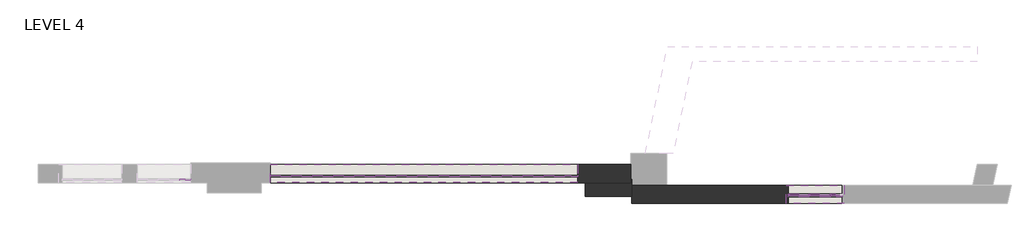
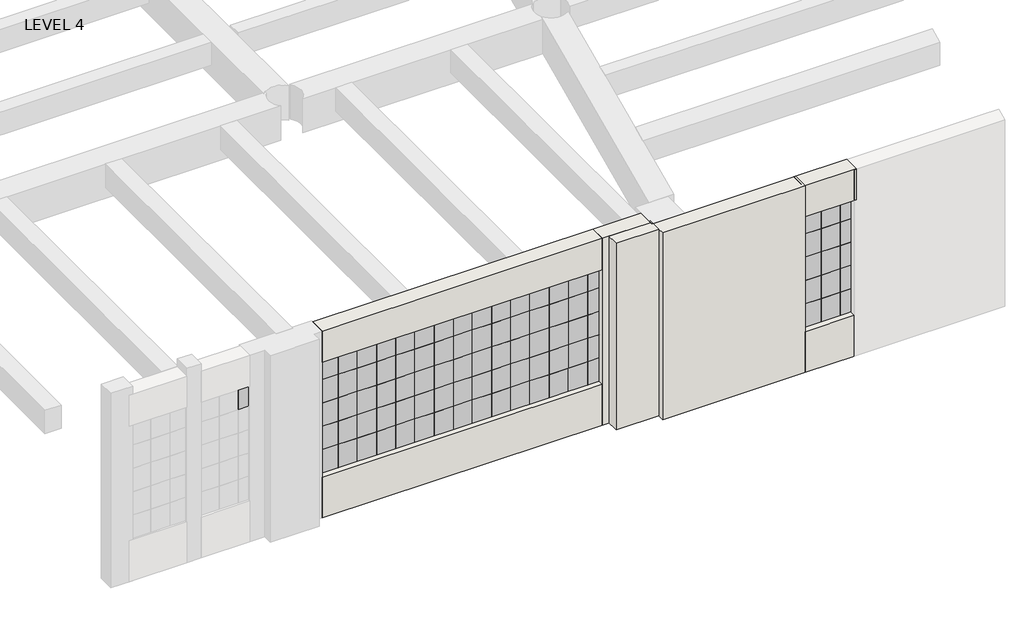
# One storey, part 16 of 26: 91 plates, 31 members, 7 walls.
"""IFC4 building model written with IfcOpenShell, lengths in millimetres."""

from ifc_helpers import new_model, si_unit, frame, origin, origin_with_axes, place, context, project, spatial, polyline, outline, extrude, faceted_brep, transform, mapped, element, save
from components import member_038dcf1c, member_3d4b608b, member_3c10d71f, member_653bb31e, member_9ec6e97d, member_6e26db71, member_d9fec558, member_0e6c94ff, member_484ef542, member_f6062bf7, system_panel_glazed_ab35d819, system_panel_glazed_0c78a478, system_panel_glazed_418eb6cd, system_panel_glazed_79403728, system_panel_glazed_babe58e8, system_panel_glazed_26306ce5, system_panel_glazed_edee1c3a

model = new_model("IFC4")

# Units and contexts
model_context = context("Model", 3, world=origin())
ifc_project = project(units=[si_unit("LENGTHUNIT", "METRE", prefix="MILLI")], contexts=[model_context])

# Site, building, storey
site = spatial("IfcSite", under=ifc_project)
building = spatial("IfcBuilding", under=site)
storey = spatial("IfcBuildingStorey", under=building, Name="LEVEL 4", Elevation=0.0)

# Members
placement = place(None, origin())
member_shape = member_038dcf1c(model_context)
element("IfcMember", 1, ObjectType="Circular Mullion : 1 1/4\" Square", at=placement, inside=storey, context=model_context, shape_type="MappedRepresentation", body=[
    mapped(member_shape, transform((14417.8363001, 87038.6689412, 2628.9), x_axis=(-1.0, 0.0, 0.0), y_axis=(0.0, -1.0, 0.0), z_axis=(0.0, 0.0, 1.0))),
])
element("IfcMember", 2, ObjectType="Circular Mullion : 1 1/4\" Square", at=placement, inside=storey, context=model_context, shape_type="MappedRepresentation", body=[
    mapped(member_shape, transform((14417.8363001, 87038.6689412, 2171.7), x_axis=(-1.0, 0.0, 0.0), y_axis=(0.0, -1.0, 0.0), z_axis=(0.0, 0.0, 1.0))),
])
element("IfcMember", 3, ObjectType="Circular Mullion : 1 1/4\" Square", at=placement, inside=storey, context=model_context, shape_type="MappedRepresentation", body=[
    mapped(member_shape, transform((14417.8363001, 87038.6689412, 1714.5), x_axis=(-1.0, 0.0, 0.0), y_axis=(0.0, -1.0, 0.0), z_axis=(0.0, 0.0, 1.0))),
])
element("IfcMember", 4, ObjectType="Circular Mullion : 1 1/4\" Square", at=placement, inside=storey, context=model_context, shape_type="MappedRepresentation", body=[
    mapped(member_shape, transform((14417.8363001, 87038.6689412, 1257.3), x_axis=(-1.0, 0.0, 0.0), y_axis=(0.0, -1.0, 0.0), z_axis=(0.0, 0.0, 1.0))),
])
member_2_shape = member_3d4b608b(model_context)
element("IfcMember", 5, ObjectType="Circular Mullion : 1 1/4\" Square", at=placement, inside=storey, context=model_context, shape_type="MappedRepresentation", body=[
    mapped(member_2_shape, transform((15129.0363004, 87038.6689412, 2171.7), x_axis=(1.0, 0.0, 0.0), y_axis=(0.0, -1.0, 0.0), z_axis=(0.0, 0.0, -1.0))),
])
element("IfcMember", 6, ObjectType="Circular Mullion : 1 1/4\" Square", at=placement, inside=storey, context=model_context, shape_type="MappedRepresentation", body=[
    mapped(member_2_shape, transform((15129.0363004, 87038.6689412, 1714.5), x_axis=(1.0, 0.0, 0.0), y_axis=(0.0, -1.0, 0.0), z_axis=(0.0, 0.0, -1.0))),
])
element("IfcMember", 7, ObjectType="Circular Mullion : 1 1/4\" Square", at=placement, inside=storey, context=model_context, shape_type="MappedRepresentation", body=[
    mapped(member_2_shape, transform((15129.0363004, 87038.6689412, 1257.3), x_axis=(1.0, 0.0, 0.0), y_axis=(0.0, -1.0, 0.0), z_axis=(0.0, 0.0, -1.0))),
])
element("IfcMember", 8, ObjectType="Circular Mullion : 1 1/4\" Square", at=placement, inside=storey, context=model_context, shape_type="MappedRepresentation", body=[
    mapped(member_2_shape, transform((14773.4363004, 87038.6689412, 2171.7), x_axis=(1.0, 0.0, 0.0), y_axis=(0.0, -1.0, 0.0), z_axis=(0.0, 0.0, -1.0))),
])
element("IfcMember", 9, ObjectType="Circular Mullion : 1 1/4\" Square", at=placement, inside=storey, context=model_context, shape_type="MappedRepresentation", body=[
    mapped(member_2_shape, transform((14773.4363004, 87038.6689412, 1714.5), x_axis=(1.0, 0.0, 0.0), y_axis=(0.0, -1.0, 0.0), z_axis=(0.0, 0.0, -1.0))),
])
element("IfcMember", 10, ObjectType="Circular Mullion : 1 1/4\" Square", at=placement, inside=storey, context=model_context, shape_type="MappedRepresentation", body=[
    mapped(member_2_shape, transform((14773.4363004, 87038.6689412, 1257.3), x_axis=(1.0, 0.0, 0.0), y_axis=(0.0, -1.0, 0.0), z_axis=(0.0, 0.0, -1.0))),
])
element("IfcMember", 11, ObjectType="Circular Mullion : 1 1/4\" Square", at=placement, inside=storey, context=model_context, shape_type="MappedRepresentation", body=[
    mapped(member_2_shape, transform((15129.0363004, 87038.6689412, 800.1), x_axis=(1.0, 0.0, 0.0), y_axis=(0.0, -1.0, 0.0), z_axis=(0.0, 0.0, -1.0))),
])
element("IfcMember", 12, ObjectType="Circular Mullion : 1 1/4\" Square", at=placement, inside=storey, context=model_context, shape_type="MappedRepresentation", body=[
    mapped(member_2_shape, transform((14773.4363004, 87038.6689412, 800.1), x_axis=(1.0, 0.0, 0.0), y_axis=(0.0, -1.0, 0.0), z_axis=(0.0, 0.0, -1.0))),
])
member_3_shape = member_3c10d71f(model_context)
element("IfcMember", 13, ObjectType="Circular Mullion : 1 1/4\" Square", at=placement, inside=storey, context=model_context, shape_type="MappedRepresentation", body=[
    mapped(member_3_shape, transform((14786.1363004, 87038.6689412, 800.1), x_axis=(0.0, 0.0, -1.0), y_axis=(0.0, -1.0, 0.0), z_axis=(-1.0, 0.0, 0.0))),
])
member_4_shape = member_653bb31e(model_context)
element("IfcMember", 14, ObjectType="Circular Mullion : 1 1/4\" Square", at=placement, inside=storey, context=model_context, shape_type="MappedRepresentation", body=[
    mapped(member_4_shape, transform((15116.3363004, 87038.6689412, 1257.3), x_axis=(0.0, 0.0, 1.0), y_axis=(0.0, -1.0, 0.0), z_axis=(1.0, 0.0, 0.0))),
])
element("IfcMember", 15, ObjectType="Circular Mullion : 1 1/4\" Square", at=placement, inside=storey, context=model_context, shape_type="MappedRepresentation", body=[
    mapped(member_4_shape, transform((15116.3363004, 87038.6689412, 1714.5), x_axis=(0.0, 0.0, 1.0), y_axis=(0.0, -1.0, 0.0), z_axis=(1.0, 0.0, 0.0))),
])
element("IfcMember", 16, ObjectType="Circular Mullion : 1 1/4\" Square", at=placement, inside=storey, context=model_context, shape_type="MappedRepresentation", body=[
    mapped(member_4_shape, transform((15116.3363004, 87038.6689412, 2171.7), x_axis=(0.0, 0.0, 1.0), y_axis=(0.0, -1.0, 0.0), z_axis=(1.0, 0.0, 0.0))),
])
element("IfcMember", 17, ObjectType="Circular Mullion : 1 1/4\" Square", at=placement, inside=storey, context=model_context, shape_type="MappedRepresentation", body=[
    mapped(member_4_shape, transform((15116.3363004, 87038.6689412, 2628.9), x_axis=(0.0, 0.0, 1.0), y_axis=(0.0, -1.0, 0.0), z_axis=(1.0, 0.0, 0.0))),
])
member_5_shape = member_9ec6e97d(model_context)
element("IfcMember", 18, ObjectType="Circular Mullion : 1 1/4\" Square", at=placement, inside=storey, context=model_context, shape_type="MappedRepresentation", body=[
    mapped(member_5_shape, transform((14443.2363001, 87038.6689412, 800.1), x_axis=(0.0, 0.0, -1.0), y_axis=(0.0, -1.0, 0.0), z_axis=(-1.0, 0.0, 0.0))),
])
member_6_shape = member_6e26db71(model_context)
element("IfcMember", 19, ObjectType="Circular Mullion : 1 1/4\" Square", at=placement, inside=storey, context=model_context, shape_type="MappedRepresentation", body=[
    mapped(member_6_shape, transform((14760.7363004, 87038.6689412, 1257.3), x_axis=(0.0, 0.0, 1.0), y_axis=(0.0, -1.0, 0.0), z_axis=(1.0, 0.0, 0.0))),
])
element("IfcMember", 20, ObjectType="Circular Mullion : 1 1/4\" Square", at=placement, inside=storey, context=model_context, shape_type="MappedRepresentation", body=[
    mapped(member_6_shape, transform((14760.7363004, 87038.6689412, 1714.5), x_axis=(0.0, 0.0, 1.0), y_axis=(0.0, -1.0, 0.0), z_axis=(1.0, 0.0, 0.0))),
])
element("IfcMember", 21, ObjectType="Circular Mullion : 1 1/4\" Square", at=placement, inside=storey, context=model_context, shape_type="MappedRepresentation", body=[
    mapped(member_6_shape, transform((14760.7363004, 87038.6689412, 2171.7), x_axis=(0.0, 0.0, 1.0), y_axis=(0.0, -1.0, 0.0), z_axis=(1.0, 0.0, 0.0))),
])
element("IfcMember", 22, ObjectType="Circular Mullion : 1 1/4\" Square", at=placement, inside=storey, context=model_context, shape_type="MappedRepresentation", body=[
    mapped(member_6_shape, transform((14760.7363004, 87038.6689412, 2628.9), x_axis=(0.0, 0.0, 1.0), y_axis=(0.0, -1.0, 0.0), z_axis=(1.0, 0.0, 0.0))),
])
member_7_shape = member_d9fec558(model_context)
element("IfcMember", 23, ObjectType="Circular Mullion : 1 1/4\" Square", at=placement, inside=storey, context=model_context, shape_type="MappedRepresentation", body=[
    mapped(member_7_shape, transform((15129.0363004, 87038.6689412, 2628.9), x_axis=(1.0, 0.0, 0.0), y_axis=(0.0, -1.0, 0.0), z_axis=(0.0, 0.0, -1.0))),
])
element("IfcMember", 24, ObjectType="Circular Mullion : 1 1/4\" Square", at=placement, inside=storey, context=model_context, shape_type="MappedRepresentation", body=[
    mapped(member_7_shape, transform((14773.4363004, 87038.6689412, 2628.9), x_axis=(1.0, 0.0, 0.0), y_axis=(0.0, -1.0, 0.0), z_axis=(0.0, 0.0, -1.0))),
])
member_8_shape = member_0e6c94ff(model_context)
element("IfcMember", 25, ObjectType="Circular Mullion : 1 1/4\" Square", at=placement, inside=storey, context=model_context, shape_type="MappedRepresentation", body=[
    mapped(member_8_shape, transform((15326.2239622, 87038.6689412, 2628.9), x_axis=(1.0, 0.0, 0.0), y_axis=(0.0, -1.0, 0.0), z_axis=(0.0, 0.0, -1.0))),
])
element("IfcMember", 26, ObjectType="Circular Mullion : 1 1/4\" Square", at=placement, inside=storey, context=model_context, shape_type="MappedRepresentation", body=[
    mapped(member_8_shape, transform((14417.8363001, 87038.6689412, 3060.7), x_axis=(-1.0, 0.0, 0.0), y_axis=(0.0, -1.0, 0.0), z_axis=(0.0, 0.0, 1.0))),
])
member_9_shape = member_484ef542(model_context)
element("IfcMember", 27, ObjectType="Circular Mullion : 1 1/4\" Square", at=placement, inside=storey, context=model_context, shape_type="MappedRepresentation", body=[
    mapped(member_9_shape, transform((15141.7363004, 87038.6689412, 800.1), x_axis=(0.0, 0.0, -1.0), y_axis=(0.0, -1.0, 0.0), z_axis=(-1.0, 0.0, 0.0))),
])
member_10_shape = member_f6062bf7(model_context)
element("IfcMember", 28, ObjectType="Circular Mullion : 1 1/4\" Square", at=placement, inside=storey, context=model_context, shape_type="MappedRepresentation", body=[
    mapped(member_10_shape, transform((15300.8239622, 87038.6689412, 1257.3), x_axis=(0.0, 0.0, 1.0), y_axis=(0.0, -1.0, 0.0), z_axis=(1.0, 0.0, 0.0))),
])
element("IfcMember", 29, ObjectType="Circular Mullion : 1 1/4\" Square", at=placement, inside=storey, context=model_context, shape_type="MappedRepresentation", body=[
    mapped(member_10_shape, transform((15300.8239622, 87038.6689412, 1714.5), x_axis=(0.0, 0.0, 1.0), y_axis=(0.0, -1.0, 0.0), z_axis=(1.0, 0.0, 0.0))),
])
element("IfcMember", 30, ObjectType="Circular Mullion : 1 1/4\" Square", at=placement, inside=storey, context=model_context, shape_type="MappedRepresentation", body=[
    mapped(member_10_shape, transform((15300.8239622, 87038.6689412, 2171.7), x_axis=(0.0, 0.0, 1.0), y_axis=(0.0, -1.0, 0.0), z_axis=(1.0, 0.0, 0.0))),
])
element("IfcMember", 31, ObjectType="Circular Mullion : 1 1/4\" Square", at=placement, inside=storey, context=model_context, shape_type="MappedRepresentation", body=[
    mapped(member_10_shape, transform((15300.8239622, 87038.6689412, 2628.9), x_axis=(0.0, 0.0, 1.0), y_axis=(0.0, -1.0, 0.0), z_axis=(1.0, 0.0, 0.0))),
])

# Plates
system_panel_glazed_shape = system_panel_glazed_ab35d819(model_context)
element("IfcPlate", 32, ObjectType="System Panel : Glazed", at=placement, inside=storey, context=model_context, shape_type="MappedRepresentation", body=[
    mapped(system_panel_glazed_shape, transform((5840.1125761, 87378.9464024, 800.1), x_axis=(1.0, 0.0, 0.0), y_axis=(0.0, 1.0, 0.0), z_axis=(0.0, 0.0, 1.0))),
])
element("IfcPlate", 33, ObjectType="System Panel : Glazed", at=placement, inside=storey, context=model_context, shape_type="MappedRepresentation", body=[
    mapped(system_panel_glazed_shape, transform((10462.9125762, 87378.9464024, 800.1), x_axis=(1.0, 0.0, 0.0), y_axis=(0.0, 1.0, 0.0), z_axis=(0.0, 0.0, 1.0))),
])
element("IfcPlate", 34, ObjectType="System Panel : Glazed", at=placement, inside=storey, context=model_context, shape_type="MappedRepresentation", body=[
    mapped(system_panel_glazed_shape, transform((14595.6363003, 87038.6689412, 800.1), x_axis=(1.0, 0.0, 0.0), y_axis=(0.0, 1.0, 0.0), z_axis=(0.0, 0.0, 1.0))),
])
element("IfcPlate", 35, ObjectType="System Panel : Glazed", at=placement, inside=storey, context=model_context, shape_type="MappedRepresentation", body=[
    mapped(system_panel_glazed_shape, transform((10107.3125762, 87378.9464024, 800.1), x_axis=(1.0, 0.0, 0.0), y_axis=(0.0, 1.0, 0.0), z_axis=(0.0, 0.0, 1.0))),
])
element("IfcPlate", 36, ObjectType="System Panel : Glazed", at=placement, inside=storey, context=model_context, shape_type="MappedRepresentation", body=[
    mapped(system_panel_glazed_shape, transform((9751.7125762, 87378.9464024, 800.1), x_axis=(1.0, 0.0, 0.0), y_axis=(0.0, 1.0, 0.0), z_axis=(0.0, 0.0, 1.0))),
])
element("IfcPlate", 37, ObjectType="System Panel : Glazed", at=placement, inside=storey, context=model_context, shape_type="MappedRepresentation", body=[
    mapped(system_panel_glazed_shape, transform((9396.1125762, 87378.9464024, 800.1), x_axis=(1.0, 0.0, 0.0), y_axis=(0.0, 1.0, 0.0), z_axis=(0.0, 0.0, 1.0))),
])
element("IfcPlate", 38, ObjectType="System Panel : Glazed", at=placement, inside=storey, context=model_context, shape_type="MappedRepresentation", body=[
    mapped(system_panel_glazed_shape, transform((9040.5125762, 87378.9464024, 800.1), x_axis=(1.0, 0.0, 0.0), y_axis=(0.0, 1.0, 0.0), z_axis=(0.0, 0.0, 1.0))),
])
element("IfcPlate", 39, ObjectType="System Panel : Glazed", at=placement, inside=storey, context=model_context, shape_type="MappedRepresentation", body=[
    mapped(system_panel_glazed_shape, transform((8684.9125762, 87378.9464024, 800.1), x_axis=(1.0, 0.0, 0.0), y_axis=(0.0, 1.0, 0.0), z_axis=(0.0, 0.0, 1.0))),
])
element("IfcPlate", 40, ObjectType="System Panel : Glazed", at=placement, inside=storey, context=model_context, shape_type="MappedRepresentation", body=[
    mapped(system_panel_glazed_shape, transform((8329.3125762, 87378.9464024, 800.1), x_axis=(1.0, 0.0, 0.0), y_axis=(0.0, 1.0, 0.0), z_axis=(0.0, 0.0, 1.0))),
])
element("IfcPlate", 41, ObjectType="System Panel : Glazed", at=placement, inside=storey, context=model_context, shape_type="MappedRepresentation", body=[
    mapped(system_panel_glazed_shape, transform((7973.7125762, 87378.9464024, 800.1), x_axis=(1.0, 0.0, 0.0), y_axis=(0.0, 1.0, 0.0), z_axis=(0.0, 0.0, 1.0))),
])
element("IfcPlate", 42, ObjectType="System Panel : Glazed", at=placement, inside=storey, context=model_context, shape_type="MappedRepresentation", body=[
    mapped(system_panel_glazed_shape, transform((7618.1125762, 87378.9464024, 800.1), x_axis=(1.0, 0.0, 0.0), y_axis=(0.0, 1.0, 0.0), z_axis=(0.0, 0.0, 1.0))),
])
element("IfcPlate", 43, ObjectType="System Panel : Glazed", at=placement, inside=storey, context=model_context, shape_type="MappedRepresentation", body=[
    mapped(system_panel_glazed_shape, transform((7262.5125762, 87378.9464024, 800.1), x_axis=(1.0, 0.0, 0.0), y_axis=(0.0, 1.0, 0.0), z_axis=(0.0, 0.0, 1.0))),
])
element("IfcPlate", 44, ObjectType="System Panel : Glazed", at=placement, inside=storey, context=model_context, shape_type="MappedRepresentation", body=[
    mapped(system_panel_glazed_shape, transform((5840.1125761, 87378.9464024, 1257.3), x_axis=(1.0, 0.0, 0.0), y_axis=(0.0, 1.0, 0.0), z_axis=(0.0, 0.0, 1.0))),
])
element("IfcPlate", 45, ObjectType="System Panel : Glazed", at=placement, inside=storey, context=model_context, shape_type="MappedRepresentation", body=[
    mapped(system_panel_glazed_shape, transform((10107.3125762, 87378.9464024, 1257.3), x_axis=(1.0, 0.0, 0.0), y_axis=(0.0, 1.0, 0.0), z_axis=(0.0, 0.0, 1.0))),
])
element("IfcPlate", 46, ObjectType="System Panel : Glazed", at=placement, inside=storey, context=model_context, shape_type="MappedRepresentation", body=[
    mapped(system_panel_glazed_shape, transform((9751.7125762, 87378.9464024, 1257.3), x_axis=(1.0, 0.0, 0.0), y_axis=(0.0, 1.0, 0.0), z_axis=(0.0, 0.0, 1.0))),
])
element("IfcPlate", 47, ObjectType="System Panel : Glazed", at=placement, inside=storey, context=model_context, shape_type="MappedRepresentation", body=[
    mapped(system_panel_glazed_shape, transform((9396.1125762, 87378.9464024, 1257.3), x_axis=(1.0, 0.0, 0.0), y_axis=(0.0, 1.0, 0.0), z_axis=(0.0, 0.0, 1.0))),
])
element("IfcPlate", 48, ObjectType="System Panel : Glazed", at=placement, inside=storey, context=model_context, shape_type="MappedRepresentation", body=[
    mapped(system_panel_glazed_shape, transform((9040.5125762, 87378.9464024, 1257.3), x_axis=(1.0, 0.0, 0.0), y_axis=(0.0, 1.0, 0.0), z_axis=(0.0, 0.0, 1.0))),
])
element("IfcPlate", 49, ObjectType="System Panel : Glazed", at=placement, inside=storey, context=model_context, shape_type="MappedRepresentation", body=[
    mapped(system_panel_glazed_shape, transform((8684.9125762, 87378.9464024, 1257.3), x_axis=(1.0, 0.0, 0.0), y_axis=(0.0, 1.0, 0.0), z_axis=(0.0, 0.0, 1.0))),
])
element("IfcPlate", 50, ObjectType="System Panel : Glazed", at=placement, inside=storey, context=model_context, shape_type="MappedRepresentation", body=[
    mapped(system_panel_glazed_shape, transform((8329.3125762, 87378.9464024, 1257.3), x_axis=(1.0, 0.0, 0.0), y_axis=(0.0, 1.0, 0.0), z_axis=(0.0, 0.0, 1.0))),
])
element("IfcPlate", 51, ObjectType="System Panel : Glazed", at=placement, inside=storey, context=model_context, shape_type="MappedRepresentation", body=[
    mapped(system_panel_glazed_shape, transform((7973.7125762, 87378.9464024, 1257.3), x_axis=(1.0, 0.0, 0.0), y_axis=(0.0, 1.0, 0.0), z_axis=(0.0, 0.0, 1.0))),
])
element("IfcPlate", 52, ObjectType="System Panel : Glazed", at=placement, inside=storey, context=model_context, shape_type="MappedRepresentation", body=[
    mapped(system_panel_glazed_shape, transform((7618.1125762, 87378.9464024, 1257.3), x_axis=(1.0, 0.0, 0.0), y_axis=(0.0, 1.0, 0.0), z_axis=(0.0, 0.0, 1.0))),
])
element("IfcPlate", 53, ObjectType="System Panel : Glazed", at=placement, inside=storey, context=model_context, shape_type="MappedRepresentation", body=[
    mapped(system_panel_glazed_shape, transform((7262.5125762, 87378.9464024, 1257.3), x_axis=(1.0, 0.0, 0.0), y_axis=(0.0, 1.0, 0.0), z_axis=(0.0, 0.0, 1.0))),
])
element("IfcPlate", 54, ObjectType="System Panel : Glazed", at=placement, inside=storey, context=model_context, shape_type="MappedRepresentation", body=[
    mapped(system_panel_glazed_shape, transform((10462.9125762, 87378.9464024, 1257.3), x_axis=(1.0, 0.0, 0.0), y_axis=(0.0, 1.0, 0.0), z_axis=(0.0, 0.0, 1.0))),
])
element("IfcPlate", 55, ObjectType="System Panel : Glazed", at=placement, inside=storey, context=model_context, shape_type="MappedRepresentation", body=[
    mapped(system_panel_glazed_shape, transform((5840.1125761, 87378.9464024, 1714.5), x_axis=(1.0, 0.0, 0.0), y_axis=(0.0, 1.0, 0.0), z_axis=(0.0, 0.0, 1.0))),
])
element("IfcPlate", 56, ObjectType="System Panel : Glazed", at=placement, inside=storey, context=model_context, shape_type="MappedRepresentation", body=[
    mapped(system_panel_glazed_shape, transform((10107.3125762, 87378.9464024, 1714.5), x_axis=(1.0, 0.0, 0.0), y_axis=(0.0, 1.0, 0.0), z_axis=(0.0, 0.0, 1.0))),
])
element("IfcPlate", 57, ObjectType="System Panel : Glazed", at=placement, inside=storey, context=model_context, shape_type="MappedRepresentation", body=[
    mapped(system_panel_glazed_shape, transform((9751.7125762, 87378.9464024, 1714.5), x_axis=(1.0, 0.0, 0.0), y_axis=(0.0, 1.0, 0.0), z_axis=(0.0, 0.0, 1.0))),
])
element("IfcPlate", 58, ObjectType="System Panel : Glazed", at=placement, inside=storey, context=model_context, shape_type="MappedRepresentation", body=[
    mapped(system_panel_glazed_shape, transform((9396.1125762, 87378.9464024, 1714.5), x_axis=(1.0, 0.0, 0.0), y_axis=(0.0, 1.0, 0.0), z_axis=(0.0, 0.0, 1.0))),
])
element("IfcPlate", 59, ObjectType="System Panel : Glazed", at=placement, inside=storey, context=model_context, shape_type="MappedRepresentation", body=[
    mapped(system_panel_glazed_shape, transform((9040.5125762, 87378.9464024, 1714.5), x_axis=(1.0, 0.0, 0.0), y_axis=(0.0, 1.0, 0.0), z_axis=(0.0, 0.0, 1.0))),
])
element("IfcPlate", 60, ObjectType="System Panel : Glazed", at=placement, inside=storey, context=model_context, shape_type="MappedRepresentation", body=[
    mapped(system_panel_glazed_shape, transform((8684.9125762, 87378.9464024, 1714.5), x_axis=(1.0, 0.0, 0.0), y_axis=(0.0, 1.0, 0.0), z_axis=(0.0, 0.0, 1.0))),
])
element("IfcPlate", 61, ObjectType="System Panel : Glazed", at=placement, inside=storey, context=model_context, shape_type="MappedRepresentation", body=[
    mapped(system_panel_glazed_shape, transform((8329.3125762, 87378.9464024, 1714.5), x_axis=(1.0, 0.0, 0.0), y_axis=(0.0, 1.0, 0.0), z_axis=(0.0, 0.0, 1.0))),
])
element("IfcPlate", 62, ObjectType="System Panel : Glazed", at=placement, inside=storey, context=model_context, shape_type="MappedRepresentation", body=[
    mapped(system_panel_glazed_shape, transform((7973.7125762, 87378.9464024, 1714.5), x_axis=(1.0, 0.0, 0.0), y_axis=(0.0, 1.0, 0.0), z_axis=(0.0, 0.0, 1.0))),
])
element("IfcPlate", 63, ObjectType="System Panel : Glazed", at=placement, inside=storey, context=model_context, shape_type="MappedRepresentation", body=[
    mapped(system_panel_glazed_shape, transform((7618.1125762, 87378.9464024, 1714.5), x_axis=(1.0, 0.0, 0.0), y_axis=(0.0, 1.0, 0.0), z_axis=(0.0, 0.0, 1.0))),
])
element("IfcPlate", 64, ObjectType="System Panel : Glazed", at=placement, inside=storey, context=model_context, shape_type="MappedRepresentation", body=[
    mapped(system_panel_glazed_shape, transform((7262.5125762, 87378.9464024, 1714.5), x_axis=(1.0, 0.0, 0.0), y_axis=(0.0, 1.0, 0.0), z_axis=(0.0, 0.0, 1.0))),
])
element("IfcPlate", 65, ObjectType="System Panel : Glazed", at=placement, inside=storey, context=model_context, shape_type="MappedRepresentation", body=[
    mapped(system_panel_glazed_shape, transform((10462.9125762, 87378.9464024, 1714.5), x_axis=(1.0, 0.0, 0.0), y_axis=(0.0, 1.0, 0.0), z_axis=(0.0, 0.0, 1.0))),
])
element("IfcPlate", 66, ObjectType="System Panel : Glazed", at=placement, inside=storey, context=model_context, shape_type="MappedRepresentation", body=[
    mapped(system_panel_glazed_shape, transform((5840.1125761, 87378.9464024, 2171.7), x_axis=(1.0, 0.0, 0.0), y_axis=(0.0, 1.0, 0.0), z_axis=(0.0, 0.0, 1.0))),
])
element("IfcPlate", 67, ObjectType="System Panel : Glazed", at=placement, inside=storey, context=model_context, shape_type="MappedRepresentation", body=[
    mapped(system_panel_glazed_shape, transform((10107.3125762, 87378.9464024, 2171.7), x_axis=(1.0, 0.0, 0.0), y_axis=(0.0, 1.0, 0.0), z_axis=(0.0, 0.0, 1.0))),
])
element("IfcPlate", 68, ObjectType="System Panel : Glazed", at=placement, inside=storey, context=model_context, shape_type="MappedRepresentation", body=[
    mapped(system_panel_glazed_shape, transform((9751.7125762, 87378.9464024, 2171.7), x_axis=(1.0, 0.0, 0.0), y_axis=(0.0, 1.0, 0.0), z_axis=(0.0, 0.0, 1.0))),
])
element("IfcPlate", 69, ObjectType="System Panel : Glazed", at=placement, inside=storey, context=model_context, shape_type="MappedRepresentation", body=[
    mapped(system_panel_glazed_shape, transform((9396.1125762, 87378.9464024, 2171.7), x_axis=(1.0, 0.0, 0.0), y_axis=(0.0, 1.0, 0.0), z_axis=(0.0, 0.0, 1.0))),
])
element("IfcPlate", 70, ObjectType="System Panel : Glazed", at=placement, inside=storey, context=model_context, shape_type="MappedRepresentation", body=[
    mapped(system_panel_glazed_shape, transform((9040.5125762, 87378.9464024, 2171.7), x_axis=(1.0, 0.0, 0.0), y_axis=(0.0, 1.0, 0.0), z_axis=(0.0, 0.0, 1.0))),
])
element("IfcPlate", 71, ObjectType="System Panel : Glazed", at=placement, inside=storey, context=model_context, shape_type="MappedRepresentation", body=[
    mapped(system_panel_glazed_shape, transform((8684.9125762, 87378.9464024, 2171.7), x_axis=(1.0, 0.0, 0.0), y_axis=(0.0, 1.0, 0.0), z_axis=(0.0, 0.0, 1.0))),
])
element("IfcPlate", 72, ObjectType="System Panel : Glazed", at=placement, inside=storey, context=model_context, shape_type="MappedRepresentation", body=[
    mapped(system_panel_glazed_shape, transform((8329.3125762, 87378.9464024, 2171.7), x_axis=(1.0, 0.0, 0.0), y_axis=(0.0, 1.0, 0.0), z_axis=(0.0, 0.0, 1.0))),
])
element("IfcPlate", 73, ObjectType="System Panel : Glazed", at=placement, inside=storey, context=model_context, shape_type="MappedRepresentation", body=[
    mapped(system_panel_glazed_shape, transform((7973.7125762, 87378.9464024, 2171.7), x_axis=(1.0, 0.0, 0.0), y_axis=(0.0, 1.0, 0.0), z_axis=(0.0, 0.0, 1.0))),
])
element("IfcPlate", 74, ObjectType="System Panel : Glazed", at=placement, inside=storey, context=model_context, shape_type="MappedRepresentation", body=[
    mapped(system_panel_glazed_shape, transform((7618.1125762, 87378.9464024, 2171.7), x_axis=(1.0, 0.0, 0.0), y_axis=(0.0, 1.0, 0.0), z_axis=(0.0, 0.0, 1.0))),
])
element("IfcPlate", 75, ObjectType="System Panel : Glazed", at=placement, inside=storey, context=model_context, shape_type="MappedRepresentation", body=[
    mapped(system_panel_glazed_shape, transform((7262.5125762, 87378.9464024, 2171.7), x_axis=(1.0, 0.0, 0.0), y_axis=(0.0, 1.0, 0.0), z_axis=(0.0, 0.0, 1.0))),
])
element("IfcPlate", 76, ObjectType="System Panel : Glazed", at=placement, inside=storey, context=model_context, shape_type="MappedRepresentation", body=[
    mapped(system_panel_glazed_shape, transform((10462.9125762, 87378.9464024, 2171.7), x_axis=(1.0, 0.0, 0.0), y_axis=(0.0, 1.0, 0.0), z_axis=(0.0, 0.0, 1.0))),
])
element("IfcPlate", 77, ObjectType="System Panel : Glazed", at=placement, inside=storey, context=model_context, shape_type="MappedRepresentation", body=[
    mapped(system_panel_glazed_shape, transform((14951.2363004, 87038.6689412, 800.1), x_axis=(1.0, 0.0, 0.0), y_axis=(0.0, 1.0, 0.0), z_axis=(0.0, 0.0, 1.0))),
])
element("IfcPlate", 78, ObjectType="System Panel : Glazed", at=placement, inside=storey, context=model_context, shape_type="MappedRepresentation", body=[
    mapped(system_panel_glazed_shape, transform((14595.6363003, 87038.6689412, 1257.3), x_axis=(1.0, 0.0, 0.0), y_axis=(0.0, 1.0, 0.0), z_axis=(0.0, 0.0, 1.0))),
])
element("IfcPlate", 79, ObjectType="System Panel : Glazed", at=placement, inside=storey, context=model_context, shape_type="MappedRepresentation", body=[
    mapped(system_panel_glazed_shape, transform((14951.2363004, 87038.6689412, 1257.3), x_axis=(1.0, 0.0, 0.0), y_axis=(0.0, 1.0, 0.0), z_axis=(0.0, 0.0, 1.0))),
])
element("IfcPlate", 80, ObjectType="System Panel : Glazed", at=placement, inside=storey, context=model_context, shape_type="MappedRepresentation", body=[
    mapped(system_panel_glazed_shape, transform((14595.6363003, 87038.6689412, 1714.5), x_axis=(1.0, 0.0, 0.0), y_axis=(0.0, 1.0, 0.0), z_axis=(0.0, 0.0, 1.0))),
])
element("IfcPlate", 81, ObjectType="System Panel : Glazed", at=placement, inside=storey, context=model_context, shape_type="MappedRepresentation", body=[
    mapped(system_panel_glazed_shape, transform((14951.2363004, 87038.6689412, 1714.5), x_axis=(1.0, 0.0, 0.0), y_axis=(0.0, 1.0, 0.0), z_axis=(0.0, 0.0, 1.0))),
])
element("IfcPlate", 82, ObjectType="System Panel : Glazed", at=placement, inside=storey, context=model_context, shape_type="MappedRepresentation", body=[
    mapped(system_panel_glazed_shape, transform((14595.6363003, 87038.6689412, 2171.7), x_axis=(1.0, 0.0, 0.0), y_axis=(0.0, 1.0, 0.0), z_axis=(0.0, 0.0, 1.0))),
])
element("IfcPlate", 83, ObjectType="System Panel : Glazed", at=placement, inside=storey, context=model_context, shape_type="MappedRepresentation", body=[
    mapped(system_panel_glazed_shape, transform((14951.2363004, 87038.6689412, 2171.7), x_axis=(1.0, 0.0, 0.0), y_axis=(0.0, 1.0, 0.0), z_axis=(0.0, 0.0, 1.0))),
])
element("IfcPlate", 84, ObjectType="System Panel : Glazed", at=placement, inside=storey, context=model_context, shape_type="MappedRepresentation", body=[
    mapped(system_panel_glazed_shape, transform((6906.9125762, 87378.9464024, 800.1), x_axis=(1.0, 0.0, 0.0), y_axis=(0.0, 1.0, 0.0), z_axis=(0.0, 0.0, 1.0))),
])
element("IfcPlate", 85, ObjectType="System Panel : Glazed", at=placement, inside=storey, context=model_context, shape_type="MappedRepresentation", body=[
    mapped(system_panel_glazed_shape, transform((6906.9125762, 87378.9464024, 1257.3), x_axis=(1.0, 0.0, 0.0), y_axis=(0.0, 1.0, 0.0), z_axis=(0.0, 0.0, 1.0))),
])
element("IfcPlate", 86, ObjectType="System Panel : Glazed", at=placement, inside=storey, context=model_context, shape_type="MappedRepresentation", body=[
    mapped(system_panel_glazed_shape, transform((6906.9125762, 87378.9464024, 1714.5), x_axis=(1.0, 0.0, 0.0), y_axis=(0.0, 1.0, 0.0), z_axis=(0.0, 0.0, 1.0))),
])
element("IfcPlate", 87, ObjectType="System Panel : Glazed", at=placement, inside=storey, context=model_context, shape_type="MappedRepresentation", body=[
    mapped(system_panel_glazed_shape, transform((6906.9125762, 87378.9464024, 2171.7), x_axis=(1.0, 0.0, 0.0), y_axis=(0.0, 1.0, 0.0), z_axis=(0.0, 0.0, 1.0))),
])
element("IfcPlate", 88, ObjectType="System Panel : Glazed", at=placement, inside=storey, context=model_context, shape_type="MappedRepresentation", body=[
    mapped(system_panel_glazed_shape, transform((6551.3125762, 87378.9464024, 800.1), x_axis=(1.0, 0.0, 0.0), y_axis=(0.0, 1.0, 0.0), z_axis=(0.0, 0.0, 1.0))),
])
element("IfcPlate", 89, ObjectType="System Panel : Glazed", at=placement, inside=storey, context=model_context, shape_type="MappedRepresentation", body=[
    mapped(system_panel_glazed_shape, transform((6551.3125762, 87378.9464024, 1257.3), x_axis=(1.0, 0.0, 0.0), y_axis=(0.0, 1.0, 0.0), z_axis=(0.0, 0.0, 1.0))),
])
element("IfcPlate", 90, ObjectType="System Panel : Glazed", at=placement, inside=storey, context=model_context, shape_type="MappedRepresentation", body=[
    mapped(system_panel_glazed_shape, transform((6551.3125762, 87378.9464024, 1714.5), x_axis=(1.0, 0.0, 0.0), y_axis=(0.0, 1.0, 0.0), z_axis=(0.0, 0.0, 1.0))),
])
element("IfcPlate", 91, ObjectType="System Panel : Glazed", at=placement, inside=storey, context=model_context, shape_type="MappedRepresentation", body=[
    mapped(system_panel_glazed_shape, transform((6551.3125762, 87378.9464024, 2171.7), x_axis=(1.0, 0.0, 0.0), y_axis=(0.0, 1.0, 0.0), z_axis=(0.0, 0.0, 1.0))),
])
element("IfcPlate", 92, ObjectType="System Panel : Glazed", at=placement, inside=storey, context=model_context, shape_type="MappedRepresentation", body=[
    mapped(system_panel_glazed_shape, transform((6195.7125762, 87378.9464024, 800.1), x_axis=(1.0, 0.0, 0.0), y_axis=(0.0, 1.0, 0.0), z_axis=(0.0, 0.0, 1.0))),
])
element("IfcPlate", 93, ObjectType="System Panel : Glazed", at=placement, inside=storey, context=model_context, shape_type="MappedRepresentation", body=[
    mapped(system_panel_glazed_shape, transform((6195.7125762, 87378.9464024, 1257.3), x_axis=(1.0, 0.0, 0.0), y_axis=(0.0, 1.0, 0.0), z_axis=(0.0, 0.0, 1.0))),
])
element("IfcPlate", 94, ObjectType="System Panel : Glazed", at=placement, inside=storey, context=model_context, shape_type="MappedRepresentation", body=[
    mapped(system_panel_glazed_shape, transform((6195.7125762, 87378.9464024, 1714.5), x_axis=(1.0, 0.0, 0.0), y_axis=(0.0, 1.0, 0.0), z_axis=(0.0, 0.0, 1.0))),
])
element("IfcPlate", 95, ObjectType="System Panel : Glazed", at=placement, inside=storey, context=model_context, shape_type="MappedRepresentation", body=[
    mapped(system_panel_glazed_shape, transform((6195.7125762, 87378.9464024, 2171.7), x_axis=(1.0, 0.0, 0.0), y_axis=(0.0, 1.0, 0.0), z_axis=(0.0, 0.0, 1.0))),
])
system_panel_glazed_2_shape = system_panel_glazed_0c78a478(model_context)
element("IfcPlate", 96, ObjectType="System Panel : Glazed", at=placement, inside=storey, context=model_context, shape_type="MappedRepresentation", body=[
    mapped(system_panel_glazed_2_shape, transform((10748.7009928, 87378.9464024, 800.1), x_axis=(1.0, 0.0, 0.0), y_axis=(0.0, 1.0, 0.0), z_axis=(0.0, 0.0, 1.0))),
])
element("IfcPlate", 97, ObjectType="System Panel : Glazed", at=placement, inside=storey, context=model_context, shape_type="MappedRepresentation", body=[
    mapped(system_panel_glazed_2_shape, transform((10748.7009928, 87378.9464024, 1257.3), x_axis=(1.0, 0.0, 0.0), y_axis=(0.0, 1.0, 0.0), z_axis=(0.0, 0.0, 1.0))),
])
element("IfcPlate", 98, ObjectType="System Panel : Glazed", at=placement, inside=storey, context=model_context, shape_type="MappedRepresentation", body=[
    mapped(system_panel_glazed_2_shape, transform((10748.7009928, 87378.9464024, 1714.5), x_axis=(1.0, 0.0, 0.0), y_axis=(0.0, 1.0, 0.0), z_axis=(0.0, 0.0, 1.0))),
])
element("IfcPlate", 99, ObjectType="System Panel : Glazed", at=placement, inside=storey, context=model_context, shape_type="MappedRepresentation", body=[
    mapped(system_panel_glazed_2_shape, transform((10748.7009928, 87378.9464024, 2171.7), x_axis=(1.0, 0.0, 0.0), y_axis=(0.0, 1.0, 0.0), z_axis=(0.0, 0.0, 1.0))),
])
system_panel_glazed_3_shape = system_panel_glazed_418eb6cd(model_context)
element("IfcPlate", 100, ObjectType="System Panel : Glazed", at=placement, inside=storey, context=model_context, shape_type="MappedRepresentation", body=[
    mapped(system_panel_glazed_3_shape, transform((5840.1125761, 87378.9464024, 2628.9), x_axis=(1.0, 0.0, 0.0), y_axis=(0.0, 1.0, 0.0), z_axis=(0.0, 0.0, 1.0))),
])
element("IfcPlate", 101, ObjectType="System Panel : Glazed", at=placement, inside=storey, context=model_context, shape_type="MappedRepresentation", body=[
    mapped(system_panel_glazed_3_shape, transform((10107.3125762, 87378.9464024, 2628.9), x_axis=(1.0, 0.0, 0.0), y_axis=(0.0, 1.0, 0.0), z_axis=(0.0, 0.0, 1.0))),
])
element("IfcPlate", 102, ObjectType="System Panel : Glazed", at=placement, inside=storey, context=model_context, shape_type="MappedRepresentation", body=[
    mapped(system_panel_glazed_3_shape, transform((9751.7125762, 87378.9464024, 2628.9), x_axis=(1.0, 0.0, 0.0), y_axis=(0.0, 1.0, 0.0), z_axis=(0.0, 0.0, 1.0))),
])
element("IfcPlate", 103, ObjectType="System Panel : Glazed", at=placement, inside=storey, context=model_context, shape_type="MappedRepresentation", body=[
    mapped(system_panel_glazed_3_shape, transform((9396.1125762, 87378.9464024, 2628.9), x_axis=(1.0, 0.0, 0.0), y_axis=(0.0, 1.0, 0.0), z_axis=(0.0, 0.0, 1.0))),
])
element("IfcPlate", 104, ObjectType="System Panel : Glazed", at=placement, inside=storey, context=model_context, shape_type="MappedRepresentation", body=[
    mapped(system_panel_glazed_3_shape, transform((9040.5125762, 87378.9464024, 2628.9), x_axis=(1.0, 0.0, 0.0), y_axis=(0.0, 1.0, 0.0), z_axis=(0.0, 0.0, 1.0))),
])
element("IfcPlate", 105, ObjectType="System Panel : Glazed", at=placement, inside=storey, context=model_context, shape_type="MappedRepresentation", body=[
    mapped(system_panel_glazed_3_shape, transform((8684.9125762, 87378.9464024, 2628.9), x_axis=(1.0, 0.0, 0.0), y_axis=(0.0, 1.0, 0.0), z_axis=(0.0, 0.0, 1.0))),
])
element("IfcPlate", 106, ObjectType="System Panel : Glazed", at=placement, inside=storey, context=model_context, shape_type="MappedRepresentation", body=[
    mapped(system_panel_glazed_3_shape, transform((8329.3125762, 87378.9464024, 2628.9), x_axis=(1.0, 0.0, 0.0), y_axis=(0.0, 1.0, 0.0), z_axis=(0.0, 0.0, 1.0))),
])
element("IfcPlate", 107, ObjectType="System Panel : Glazed", at=placement, inside=storey, context=model_context, shape_type="MappedRepresentation", body=[
    mapped(system_panel_glazed_3_shape, transform((7973.7125762, 87378.9464024, 2628.9), x_axis=(1.0, 0.0, 0.0), y_axis=(0.0, 1.0, 0.0), z_axis=(0.0, 0.0, 1.0))),
])
element("IfcPlate", 108, ObjectType="System Panel : Glazed", at=placement, inside=storey, context=model_context, shape_type="MappedRepresentation", body=[
    mapped(system_panel_glazed_3_shape, transform((7618.1125762, 87378.9464024, 2628.9), x_axis=(1.0, 0.0, 0.0), y_axis=(0.0, 1.0, 0.0), z_axis=(0.0, 0.0, 1.0))),
])
element("IfcPlate", 109, ObjectType="System Panel : Glazed", at=placement, inside=storey, context=model_context, shape_type="MappedRepresentation", body=[
    mapped(system_panel_glazed_3_shape, transform((7262.5125762, 87378.9464024, 2628.9), x_axis=(1.0, 0.0, 0.0), y_axis=(0.0, 1.0, 0.0), z_axis=(0.0, 0.0, 1.0))),
])
element("IfcPlate", 110, ObjectType="System Panel : Glazed", at=placement, inside=storey, context=model_context, shape_type="MappedRepresentation", body=[
    mapped(system_panel_glazed_3_shape, transform((10462.9125762, 87378.9464024, 2628.9), x_axis=(1.0, 0.0, 0.0), y_axis=(0.0, 1.0, 0.0), z_axis=(0.0, 0.0, 1.0))),
])
element("IfcPlate", 111, ObjectType="System Panel : Glazed", at=placement, inside=storey, context=model_context, shape_type="MappedRepresentation", body=[
    mapped(system_panel_glazed_3_shape, transform((14595.6363003, 87038.6689412, 2628.9), x_axis=(1.0, 0.0, 0.0), y_axis=(0.0, 1.0, 0.0), z_axis=(0.0, 0.0, 1.0))),
])
element("IfcPlate", 112, ObjectType="System Panel : Glazed", at=placement, inside=storey, context=model_context, shape_type="MappedRepresentation", body=[
    mapped(system_panel_glazed_3_shape, transform((14951.2363004, 87038.6689412, 2628.9), x_axis=(1.0, 0.0, 0.0), y_axis=(0.0, 1.0, 0.0), z_axis=(0.0, 0.0, 1.0))),
])
element("IfcPlate", 113, ObjectType="System Panel : Glazed", at=placement, inside=storey, context=model_context, shape_type="MappedRepresentation", body=[
    mapped(system_panel_glazed_3_shape, transform((6906.9125762, 87378.9464024, 2628.9), x_axis=(1.0, 0.0, 0.0), y_axis=(0.0, 1.0, 0.0), z_axis=(0.0, 0.0, 1.0))),
])
element("IfcPlate", 114, ObjectType="System Panel : Glazed", at=placement, inside=storey, context=model_context, shape_type="MappedRepresentation", body=[
    mapped(system_panel_glazed_3_shape, transform((6551.3125762, 87378.9464024, 2628.9), x_axis=(1.0, 0.0, 0.0), y_axis=(0.0, 1.0, 0.0), z_axis=(0.0, 0.0, 1.0))),
])
element("IfcPlate", 115, ObjectType="System Panel : Glazed", at=placement, inside=storey, context=model_context, shape_type="MappedRepresentation", body=[
    mapped(system_panel_glazed_3_shape, transform((6195.7125762, 87378.9464024, 2628.9), x_axis=(1.0, 0.0, 0.0), y_axis=(0.0, 1.0, 0.0), z_axis=(0.0, 0.0, 1.0))),
])
system_panel_glazed_4_shape = system_panel_glazed_79403728(model_context)
element("IfcPlate", 116, ObjectType="System Panel : Glazed", at=placement, inside=storey, context=model_context, shape_type="MappedRepresentation", body=[
    mapped(system_panel_glazed_4_shape, transform((4227.7598431, 87323.8897286, 2628.9), x_axis=(1.0, 0.0, 0.0), y_axis=(0.0, 1.0, 0.0), z_axis=(0.0, 0.0, 1.0))),
])
system_panel_glazed_5_shape = system_panel_glazed_babe58e8(model_context)
element("IfcPlate", 117, ObjectType="System Panel : Glazed", at=placement, inside=storey, context=model_context, shape_type="MappedRepresentation", body=[
    mapped(system_panel_glazed_5_shape, transform((10748.7009928, 87378.9464024, 2628.9), x_axis=(1.0, 0.0, 0.0), y_axis=(0.0, 1.0, 0.0), z_axis=(0.0, 0.0, 1.0))),
])
system_panel_glazed_6_shape = system_panel_glazed_26306ce5(model_context)
element("IfcPlate", 118, ObjectType="System Panel : Glazed", at=placement, inside=storey, context=model_context, shape_type="MappedRepresentation", body=[
    mapped(system_panel_glazed_6_shape, transform((15227.6301313, 87038.6689412, 800.1), x_axis=(1.0, 0.0, 0.0), y_axis=(0.0, 1.0, 0.0), z_axis=(0.0, 0.0, 1.0))),
])
element("IfcPlate", 119, ObjectType="System Panel : Glazed", at=placement, inside=storey, context=model_context, shape_type="MappedRepresentation", body=[
    mapped(system_panel_glazed_6_shape, transform((15227.6301313, 87038.6689412, 1257.3), x_axis=(1.0, 0.0, 0.0), y_axis=(0.0, 1.0, 0.0), z_axis=(0.0, 0.0, 1.0))),
])
element("IfcPlate", 120, ObjectType="System Panel : Glazed", at=placement, inside=storey, context=model_context, shape_type="MappedRepresentation", body=[
    mapped(system_panel_glazed_6_shape, transform((15227.6301313, 87038.6689412, 1714.5), x_axis=(1.0, 0.0, 0.0), y_axis=(0.0, 1.0, 0.0), z_axis=(0.0, 0.0, 1.0))),
])
element("IfcPlate", 121, ObjectType="System Panel : Glazed", at=placement, inside=storey, context=model_context, shape_type="MappedRepresentation", body=[
    mapped(system_panel_glazed_6_shape, transform((15227.6301313, 87038.6689412, 2171.7), x_axis=(1.0, 0.0, 0.0), y_axis=(0.0, 1.0, 0.0), z_axis=(0.0, 0.0, 1.0))),
])
system_panel_glazed_7_shape = system_panel_glazed_edee1c3a(model_context)
element("IfcPlate", 122, ObjectType="System Panel : Glazed", at=placement, inside=storey, context=model_context, shape_type="MappedRepresentation", body=[
    mapped(system_panel_glazed_7_shape, transform((15227.6301313, 87038.6689412, 2628.9), x_axis=(1.0, 0.0, 0.0), y_axis=(0.0, 1.0, 0.0), z_axis=(0.0, 0.0, 1.0))),
])

# Walls
element("IfcWall", 123, ObjectType="_Generic - 11\"", at=placement, inside=storey, context=model_context, shape_type="Brep", body=[
    faceted_brep([(10983.6894093, 87009.0589024, 0.0), (11774.7821453, 87009.0589024, 0.0), (11774.7821453, 87009.0589024, 3657.6), (10983.6894093, 87009.0589024, 3657.6), (10983.6894093, 87288.4589024, 0.0), (10983.6894093, 87288.4589024, 3657.6), (11774.7821453, 87288.4589024, 3657.6), (11774.7821453, 87288.4589024, 0.0), (11774.7821453, 87191.0689412, 0.0), (11774.7821453, 87191.0689412, 3657.6)], [[[0, 1, 2, 3]], [[4, 5, 6, 7]], [[1, 0, 4, 7, 8]], [[2, 1, 8, 7, 6, 9]], [[3, 2, 9, 6, 5]], [[0, 3, 5, 4]]]),
])
element("IfcWall", 124, ObjectType="_Generic - 12\"", at=placement, inside=storey, context=model_context, shape_type="Brep", body=[
    faceted_brep([(14417.8363001, 87191.0689412, 0.0), (11774.7821453, 87191.0689412, 0.0), (11774.7821453, 87191.0689412, 3657.6), (14417.8363001, 87191.0689412, 3657.6), (14417.8363001, 87191.0689412, 800.1), (14417.8363001, 86886.2689412, 0.0), (14417.8363001, 86886.2689412, 3657.6), (11774.7821453, 86886.2689412, 3657.6), (11774.7821453, 86886.2689412, 0.0), (11774.7821453, 87009.0589024, 0.0), (11774.7821453, 87009.0589024, 3657.6)], [[[0, 1, 2, 3, 4]], [[5, 6, 7, 8]], [[1, 0, 5, 8, 9]], [[2, 1, 9, 8, 7, 10]], [[3, 2, 10, 7, 6]], [[0, 4, 3, 6, 5]]]),
])
element("IfcWall", 125, ObjectType="_Generic - 12\"", at=placement, inside=storey, context=model_context, shape_type="Brep", body=[
    faceted_brep([(10856.6894093, 87237.6589024, 0.0), (11750.8363001, 87237.6589024, 0.0), (11750.8363001, 87237.6589024, 3657.6), (10856.6894093, 87237.6589024, 3657.6), (10856.6894093, 87237.6589024, 800.1), (10856.6894093, 87542.4589024, 0.0), (10856.6894093, 87542.4589024, 3657.6), (11750.8363001, 87542.4589024, 3657.6), (11750.8363001, 87542.4589024, 0.0)], [[[0, 1, 2, 3, 4]], [[5, 6, 7, 8]], [[1, 0, 5, 8]], [[2, 1, 8, 7]], [[3, 2, 7, 6]], [[0, 4, 3, 6, 5]]]),
])
element("IfcWall", 126, ObjectType="_Generic - 12\"", at=placement, inside=storey, context=model_context, shape_type="SweptSolid", body=[
    extrude(outline(polyline([(10856.6894093, 87237.6589024), (5662.3125759, 87237.6589024), (5662.3125759, 87542.4589024), (10856.6894093, 87542.4589024), (10856.6894093, 87237.6589024)])), origin_with_axes(), (0.0, 0.0, 1.0), 800.1),
])
element("IfcWall", 127, ObjectType="_Generic - 12\"", at=placement, inside=storey, context=model_context, shape_type="SweptSolid", body=[
    extrude(outline(polyline([(15326.2239622, 86886.2689412), (14417.8363001, 86886.2689412), (14417.8363001, 87191.0689412), (15326.2239622, 87191.0689412), (15326.2239622, 86886.2689412)])), origin_with_axes(), (0.0, 0.0, 1.0), 800.1),
])
element("IfcWall", 128, ObjectType="_Generic - 12\"", at=placement, inside=storey, context=model_context, shape_type="SweptSolid", body=[
    extrude(outline(polyline([(10856.6894093, 87237.6589024), (5662.3125759, 87237.6589024), (5662.3125759, 87542.4589024), (10856.6894093, 87542.4589024), (10856.6894093, 87237.6589024)])), frame((0.0, 0.0, 3048.0), z_axis=(0.0, 0.0, 1.0), x_axis=(1.0, 0.0, 0.0)), (0.0, 0.0, 1.0), 609.6),
])
element("IfcWall", 129, ObjectType="_Generic - 12\"", at=placement, inside=storey, context=model_context, shape_type="SweptSolid", body=[
    extrude(outline(polyline([(15364.932089, 86886.2689412), (14383.857089, 86886.2689412), (14383.857089, 87191.0689412), (15364.932089, 87191.0689412), (15364.932089, 86886.2689412)])), frame((0.0, 0.0, 3048.0), z_axis=(0.0, 0.0, 1.0), x_axis=(1.0, 0.0, 0.0)), (0.0, 0.0, 1.0), 609.6),
])

save(model, "model.ifc")
